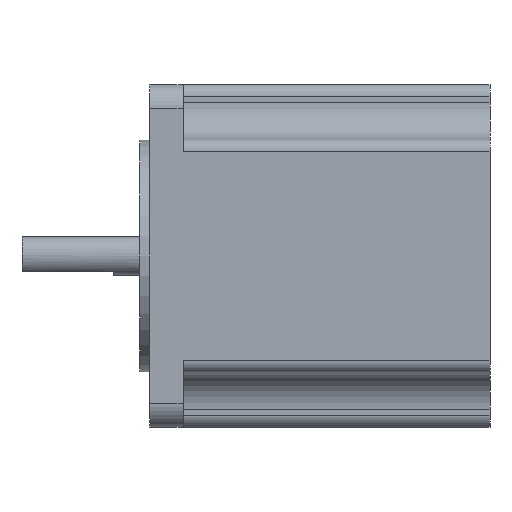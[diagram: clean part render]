
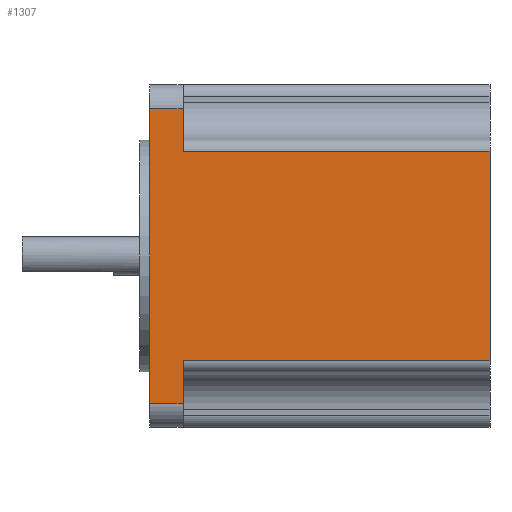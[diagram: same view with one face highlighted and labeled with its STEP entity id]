
A CAD part, left-side view. The second image highlights one B-rep face of the part: STEP entity #1307.
In plain terms, the highlighted planar face has unit normal (-1, 0, 0).
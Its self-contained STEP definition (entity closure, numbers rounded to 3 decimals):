
#148 = DIRECTION ( 'NONE',  ( 0., 0., 1. ) ) ;
#149 = VECTOR ( 'NONE', #148, 1000. ) ;
#150 = CARTESIAN_POINT ( 'NONE',  ( 0., 56., 0. ) ) ;
#151 = LINE ( 'NONE', #150, #149 ) ;
#152 = CARTESIAN_POINT ( 'NONE',  ( 0., 56., -52.4 ) ) ;
#158 = DIRECTION ( 'NONE',  ( 0., 0., -1. ) ) ;
#159 = DIRECTION ( 'NONE',  ( 1., 0., 0. ) ) ;
#160 = CARTESIAN_POINT ( 'NONE',  ( 0., 56., 0. ) ) ;
#161 = AXIS2_PLACEMENT_3D ( 'NONE', #160, #159, #158 ) ;
#162 = PLANE ( 'NONE',  #161 ) ;
#163 = FACE_OUTER_BOUND ( 'NONE', #1308, .T. ) ;
#214 = DIRECTION ( 'NONE',  ( 0., 0., -1. ) ) ;
#215 = VECTOR ( 'NONE', #214, 1000. ) ;
#216 = CARTESIAN_POINT ( 'NONE',  ( 0., 50.5, -56.4 ) ) ;
#217 = LINE ( 'NONE', #216, #215 ) ;
#218 = CARTESIAN_POINT ( 'NONE',  ( 0., 50.5, -52.4 ) ) ;
#219 = DIRECTION ( 'NONE',  ( 0., -1., 0. ) ) ;
#220 = VECTOR ( 'NONE', #219, 1000. ) ;
#221 = CARTESIAN_POINT ( 'NONE',  ( 0., 56., -52.4 ) ) ;
#222 = LINE ( 'NONE', #221, #220 ) ;
#241 = CARTESIAN_POINT ( 'NONE',  ( 0., 50.5, -45.4 ) ) ;
#409 = CARTESIAN_POINT ( 'NONE',  ( 0., 56., -4. ) ) ;
#935 = ORIENTED_EDGE ( 'NONE', *, *, #936, .T. ) ;
#936 = EDGE_CURVE ( 'NONE', #940, #939, #1551, .T. ) ;
#937 = ORIENTED_EDGE ( 'NONE', *, *, #938, .T. ) ;
#938 = EDGE_CURVE ( 'NONE', #1346, #940, #1547, .T. ) ;
#939 = VERTEX_POINT ( 'NONE', #1635 ) ;
#940 = VERTEX_POINT ( 'NONE', #1634 ) ;
#1000 = ORIENTED_EDGE ( 'NONE', *, *, #1001, .T. ) ;
#1001 = EDGE_CURVE ( 'NONE', #1004, #1427, #1604, .T. ) ;
#1002 = ORIENTED_EDGE ( 'NONE', *, *, #1003, .F. ) ;
#1003 = EDGE_CURVE ( 'NONE', #1004, #1005, #1669, .T. ) ;
#1004 = VERTEX_POINT ( 'NONE', #1670 ) ;
#1005 = VERTEX_POINT ( 'NONE', #1674 ) ;
#1010 = EDGE_CURVE ( 'NONE', #939, #1005, #1694, .T. ) ;
#1013 = ORIENTED_EDGE ( 'NONE', *, *, #1010, .T. ) ;
#1269 = VERTEX_POINT ( 'NONE', #152 ) ;
#1271 = EDGE_CURVE ( 'NONE', #1269, #1427, #151, .T. ) ;
#1307 = ADVANCED_FACE ( 'NONE', ( #163 ), #162, .F. ) ;
#1308 = EDGE_LOOP ( 'NONE', ( #1309, #1310, #1313, #937, #935, #1013, #1002, #1000 ) ) ;
#1309 = ORIENTED_EDGE ( 'NONE', *, *, #1271, .F. ) ;
#1310 = ORIENTED_EDGE ( 'NONE', *, *, #1311, .T. ) ;
#1311 = EDGE_CURVE ( 'NONE', #1269, #1312, #222, .T. ) ;
#1312 = VERTEX_POINT ( 'NONE', #218 ) ;
#1313 = ORIENTED_EDGE ( 'NONE', *, *, #1314, .F. ) ;
#1314 = EDGE_CURVE ( 'NONE', #1346, #1312, #217, .T. ) ;
#1346 = VERTEX_POINT ( 'NONE', #241 ) ;
#1427 = VERTEX_POINT ( 'NONE', #409 ) ;
#1545 = VECTOR ( 'NONE', #1636, 1000. ) ;
#1546 = CARTESIAN_POINT ( 'NONE',  ( 0., 56., -45.4 ) ) ;
#1547 = LINE ( 'NONE', #1546, #1545 ) ;
#1548 = DIRECTION ( 'NONE',  ( 0., 0., 1. ) ) ;
#1549 = VECTOR ( 'NONE', #1548, 1000. ) ;
#1550 = CARTESIAN_POINT ( 'NONE',  ( 0., 0., 0. ) ) ;
#1551 = LINE ( 'NONE', #1550, #1549 ) ;
#1598 = VECTOR ( 'NONE', #1671, 1000. ) ;
#1599 = CARTESIAN_POINT ( 'NONE',  ( 0., 56., -4. ) ) ;
#1604 = LINE ( 'NONE', #1599, #1598 ) ;
#1634 = CARTESIAN_POINT ( 'NONE',  ( 0., 0., -45.4 ) ) ;
#1635 = CARTESIAN_POINT ( 'NONE',  ( 0., 0., -11. ) ) ;
#1636 = DIRECTION ( 'NONE',  ( 0., -1., 0. ) ) ;
#1668 = CARTESIAN_POINT ( 'NONE',  ( 0., 50.5, 0. ) ) ;
#1669 = LINE ( 'NONE', #1668, #1676 ) ;
#1670 = CARTESIAN_POINT ( 'NONE',  ( 0., 50.5, -4. ) ) ;
#1671 = DIRECTION ( 'NONE',  ( 0., 1., 0. ) ) ;
#1674 = CARTESIAN_POINT ( 'NONE',  ( 0., 50.5, -11. ) ) ;
#1675 = DIRECTION ( 'NONE',  ( 0., 0., -1. ) ) ;
#1676 = VECTOR ( 'NONE', #1675, 1000. ) ;
#1690 = DIRECTION ( 'NONE',  ( 0., 1., 0. ) ) ;
#1691 = VECTOR ( 'NONE', #1690, 1000. ) ;
#1693 = CARTESIAN_POINT ( 'NONE',  ( 0., 56., -11. ) ) ;
#1694 = LINE ( 'NONE', #1693, #1691 ) ;
